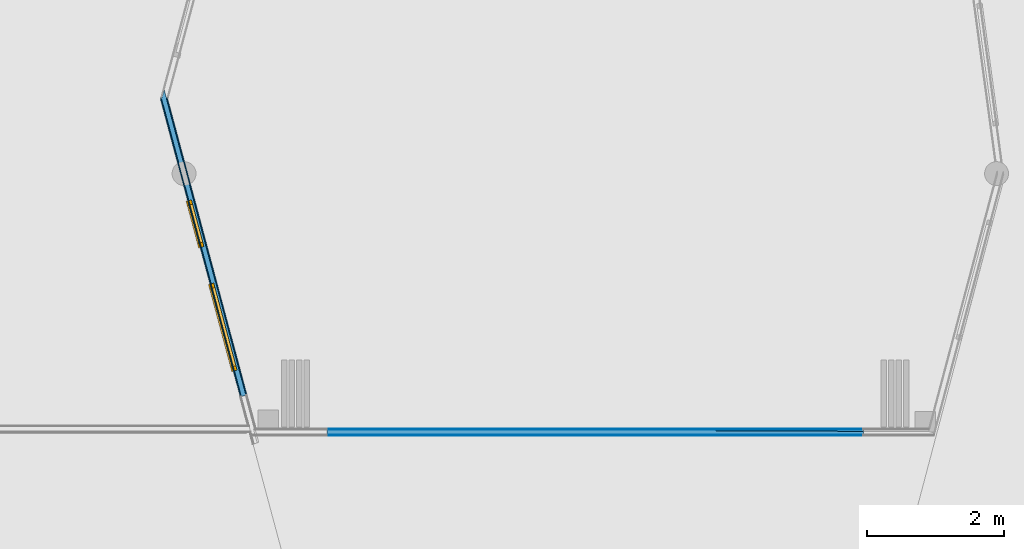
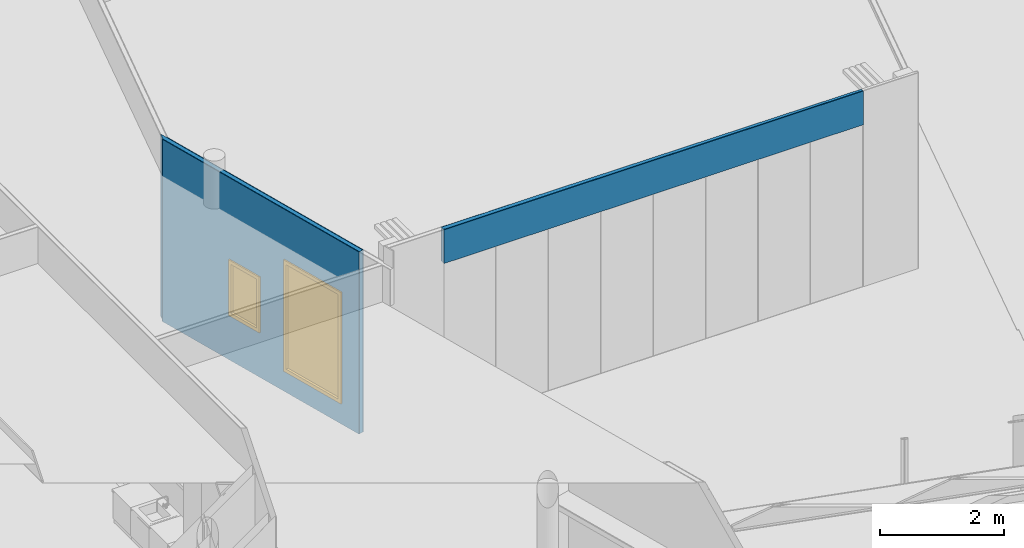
# One storey, part 61 of 167: 6 building element parts, 2 windows, 2 openings, 2 elements without a shape of their own.
"""IFC2X3 building model written with IfcOpenShell, lengths in millimetres."""

from ifc_helpers import new_model, entity, si_unit, converted_unit, derived_unit, money_unit, direction, frame, origin_with_axes, place, context, subcontext, project, spatial, open_shell, faceted_brep, surface_model, material, type_object, element, fill, aggregate, save


model = new_model("IFC2X3")

# Units and contexts
model_context = context("Model", 3, precision=0.01, world=origin_with_axes(), true_north=direction((0.0, 1.0)))
plan_context = context("Plan", 3, precision=0.01, world=origin_with_axes(), true_north=direction((0.0, 1.0)))
body_context = subcontext(model_context, "Body", "Model", "MODEL_VIEW")
ifc_project = project(units=[si_unit("LENGTHUNIT", "METRE", prefix="MILLI"), si_unit("AREAUNIT", "SQUARE_METRE"), si_unit("VOLUMEUNIT", "CUBIC_METRE"), converted_unit("PLANEANGLEUNIT", "DEGREE", entity("IfcPlaneAngleMeasure", 0.0174532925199), si_unit("PLANEANGLEUNIT", "RADIAN"), dimensions=[0, 0, 0, 0, 0, 0, 0]), si_unit("SOLIDANGLEUNIT", "STERADIAN"), money_unit("EUR"), converted_unit("TIMEUNIT", "Year", entity("IfcTimeMeasure", 31556926.0), si_unit("TIMEUNIT", "SECOND"), dimensions=[0, 0, 1, 0, 0, 0, 0]), si_unit("MASSUNIT", "GRAM", prefix="KILO"), si_unit("THERMODYNAMICTEMPERATUREUNIT", "DEGREE_CELSIUS"), si_unit("LUMINOUSINTENSITYUNIT", "LUMEN"), si_unit("ENERGYUNIT", "JOULE", prefix="MEGA"), derived_unit("THERMALCONDUCTANCEUNIT", [(si_unit("POWERUNIT", "WATT"), 1), (si_unit("LENGTHUNIT", "METRE"), -1), (si_unit("THERMODYNAMICTEMPERATUREUNIT", "KELVIN"), -1)]), derived_unit("SPECIFICHEATCAPACITYUNIT", [(si_unit("ENERGYUNIT", "JOULE"), 1), (si_unit("MASSUNIT", "GRAM", prefix="KILO"), -1), (si_unit("THERMODYNAMICTEMPERATUREUNIT", "KELVIN"), -1)]), derived_unit("MASSDENSITYUNIT", [(si_unit("MASSUNIT", "GRAM", prefix="KILO"), 1), (si_unit("VOLUMEUNIT", "CUBIC_METRE"), -1)])], contexts=[model_context, plan_context])

# Site, building, storey
site_placement = place(None, origin_with_axes())
site = spatial("IfcSite", under=ifc_project, at=site_placement, Name="Site", CompositionType="ELEMENT")
building_placement = place(site_placement, origin_with_axes())
building = spatial("IfcBuilding", under=site, at=building_placement, Name="Naam gebouw", CompositionType="ELEMENT")
storey_placement = place(building_placement, origin_with_axes())
storey = spatial("IfcBuildingStorey", under=building, at=storey_placement, Name="Begane grond", CompositionType="ELEMENT", Elevation=0.0)

# Window
window_style = type_object("IfcWindowStyle", Name="R1 24", ConstructionType="NOTDEFINED", OperationType="SINGLE_PANEL", ParameterTakesPrecedence=False, Sizeable=False)
wall_2_placement = place(storey_placement, frame((11187.5193443, 29890.1209257, -100.0), z_axis=(0.0, 0.0, 1.0), x_axis=(0.258819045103, -0.965925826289, 0.0)))
opening_1_placement = place(wall_2_placement, frame((1876.61092126, 0.0, 925.850722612), z_axis=(0.0, 0.0, 1.0), x_axis=(1.0, 0.0, 0.0)))
window_1_placement = place(opening_1_placement, frame((353.414372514, 0.0, 0.0), z_axis=(0.0, 0.0, 1.0), x_axis=(-1.0, 0.0, 0.0)))
window_1 = element("IfcWindow", 1, at=window_1_placement, inside=storey, type_object=window_style, Name="31_Raam_Hi-36", ObjectType="WINDOW", OverallHeight=1100.0, OverallWidth=706.829, context=body_context, shape_type="SurfaceModel", body=[
    faceted_brep([(67.0, -5.0, 1033.0), (67.0, 75.0, 1033.0), (0.0, 75.0, 1033.0), (0.0, -5.0, 1033.0), (67.0, -5.0, 67.0), (67.0, 75.0, 67.0), (0.0, 75.0, 67.0), (0.0, -5.0, 67.0)], [[[0, 1, 2, 3]], [[4, 5, 1, 0]], [[1, 5, 6, 2]], [[3, 2, 6, 7]], [[0, 3, 7, 4]], [[7, 6, 5, 4]]]),
    faceted_brep([(639.828745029, -5.0, 67.0), (639.828745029, 75.0, 67.0), (706.828745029, 75.0, 67.0), (706.828745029, -5.0, 67.0), (639.828745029, -5.0, 1033.0), (639.828745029, 75.0, 1033.0), (706.828745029, 75.0, 1033.0), (706.828745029, -5.0, 1033.0)], [[[0, 1, 2, 3]], [[4, 5, 1, 0]], [[1, 5, 6, 2]], [[3, 2, 6, 7]], [[0, 3, 7, 4]], [[7, 6, 5, 4]]]),
    faceted_brep([(67.0, -5.0, 67.0), (67.0, 75.0, 67.0), (0.0, 75.0, 67.0), (0.0, -5.0, 67.0), (639.828745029, -5.0, 67.0), (639.828745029, 75.0, 67.0), (706.828745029, 75.0, 67.0), (706.828745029, 75.0, 0.0), (0.0, 75.0, 0.0), (0.0, -5.0, 0.0), (706.828745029, -5.0, 0.0), (706.828745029, -5.0, 67.0)], [[[0, 1, 2, 3]], [[4, 5, 1, 0]], [[1, 5, 6, 7, 8, 2]], [[3, 2, 8, 9]], [[0, 3, 9, 10, 11, 4]], [[11, 6, 5, 4]], [[10, 7, 6, 11]], [[9, 8, 7, 10]]]),
    faceted_brep([(639.828745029, -5.0, 1033.0), (639.828745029, 75.0, 1033.0), (706.828745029, 75.0, 1033.0), (706.828745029, -5.0, 1033.0), (67.0, -5.0, 1033.0), (67.0, 75.0, 1033.0), (0.0, 75.0, 1033.0), (0.0, 75.0, 1100.0), (706.828745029, 75.0, 1100.0), (706.828745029, -5.0, 1100.0), (0.0, -5.0, 1100.0), (0.0, -5.0, 1033.0)], [[[0, 1, 2, 3]], [[4, 5, 1, 0]], [[1, 5, 6, 7, 8, 2]], [[3, 2, 8, 9]], [[0, 3, 9, 10, 11, 4]], [[11, 6, 5, 4]], [[10, 7, 6, 11]], [[9, 8, 7, 10]]]),
    surface_model("IfcShellBasedSurfaceModel", [(67.0, 11.0, 67.0), (639.828745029, 11.0, 67.0), (639.828745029, 11.0, 1033.0), (67.0, 11.0, 1033.0)], [open_shell([[[0, 1, 2, 3]]])]),
    surface_model("IfcShellBasedSurfaceModel", [(67.0, 31.0, 67.0), (67.0, 31.0, 1033.0), (639.828745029, 31.0, 1033.0), (639.828745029, 31.0, 67.0)], [open_shell([[[0, 1, 2, 3]]])]),
])

opening_2_placement = place(wall_2_placement, frame((3441.0910173, 0.0, 446.696525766), z_axis=(0.0, 0.0, 1.0), x_axis=(1.0, 0.0, 0.0)))
window_2_placement = place(opening_2_placement, frame((658.572430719, 0.0, 0.0), z_axis=(0.0, 0.0, 1.0), x_axis=(-1.0, 0.0, 0.0)))
window_2 = element("IfcWindow", 2, at=window_2_placement, inside=storey, type_object=window_style, Name="31_Raam_Hi-37", ObjectType="WINDOW", OverallHeight=2200.0, OverallWidth=1317.14, context=body_context, shape_type="SurfaceModel", body=[
    faceted_brep([(67.0, -5.0, 2133.0), (67.0, 75.0, 2133.0), (0.0, 75.0, 2133.0), (0.0, -5.0, 2133.0), (67.0, -5.0, 67.0), (67.0, 75.0, 67.0), (0.0, 75.0, 67.0), (0.0, -5.0, 67.0)], [[[0, 1, 2, 3]], [[4, 5, 1, 0]], [[1, 5, 6, 2]], [[3, 2, 6, 7]], [[0, 3, 7, 4]], [[7, 6, 5, 4]]]),
    faceted_brep([(1250.14486144, -5.0, 67.0), (1250.14486144, 75.0, 67.0), (1317.14486144, 75.0, 67.0), (1317.14486144, -5.0, 67.0), (1250.14486144, -5.0, 2133.0), (1250.14486144, 75.0, 2133.0), (1317.14486144, 75.0, 2133.0), (1317.14486144, -5.0, 2133.0)], [[[0, 1, 2, 3]], [[4, 5, 1, 0]], [[1, 5, 6, 2]], [[3, 2, 6, 7]], [[0, 3, 7, 4]], [[7, 6, 5, 4]]]),
    faceted_brep([(67.0, -5.0, 67.0), (67.0, 75.0, 67.0), (0.0, 75.0, 67.0), (0.0, -5.0, 67.0), (1250.14486144, -5.0, 67.0), (1250.14486144, 75.0, 67.0), (1317.14486144, 75.0, 67.0), (1317.14486144, 75.0, 0.0), (0.0, 75.0, 0.0), (0.0, -5.0, 0.0), (1317.14486144, -5.0, 0.0), (1317.14486144, -5.0, 67.0)], [[[0, 1, 2, 3]], [[4, 5, 1, 0]], [[1, 5, 6, 7, 8, 2]], [[3, 2, 8, 9]], [[0, 3, 9, 10, 11, 4]], [[11, 6, 5, 4]], [[10, 7, 6, 11]], [[9, 8, 7, 10]]]),
    faceted_brep([(1250.14486144, -5.0, 2133.0), (1250.14486144, 75.0, 2133.0), (1317.14486144, 75.0, 2133.0), (1317.14486144, -5.0, 2133.0), (67.0, -5.0, 2133.0), (67.0, 75.0, 2133.0), (0.0, 75.0, 2133.0), (0.0, 75.0, 2200.0), (1317.14486144, 75.0, 2200.0), (1317.14486144, -5.0, 2200.0), (0.0, -5.0, 2200.0), (0.0, -5.0, 2133.0)], [[[0, 1, 2, 3]], [[4, 5, 1, 0]], [[1, 5, 6, 7, 8, 2]], [[3, 2, 8, 9]], [[0, 3, 9, 10, 11, 4]], [[11, 6, 5, 4]], [[10, 7, 6, 11]], [[9, 8, 7, 10]]]),
    surface_model("IfcShellBasedSurfaceModel", [(67.0, 11.0, 67.0), (1250.14486144, 11.0, 67.0), (1250.14486144, 11.0, 2133.0), (67.0, 11.0, 2133.0)], [open_shell([[[0, 1, 2, 3]]])]),
    surface_model("IfcShellBasedSurfaceModel", [(67.0, 31.0, 67.0), (67.0, 31.0, 2133.0), (1250.14486144, 31.0, 2133.0), (1250.14486144, 31.0, 67.0)], [open_shell([[[0, 1, 2, 3]]])]),
])

# Wall, building element parts
wall_type = type_object("IfcWallType", Name="_TenW_22_Metalstud 100 enkel gipsvezelplaat 100", PredefinedType="NOTDEFINED")
wall_1_placement = place(storey_placement, frame((13564.462989, 25025.0, 3202.0), z_axis=(0.0, 0.0, 1.0), x_axis=(1.0, 0.0, 0.0)))
wall_1 = element("IfcWall", 3, at=wall_1_placement, inside=storey, type_object=wall_type, Name="22_Wand_Wand-x")
ifc_material_1 = material(Name="Gipsplaat watervast")
building_element_part_1_placement = place(wall_1_placement, origin_with_axes())
building_element_part_1 = element("IfcBuildingElementPart", 4, at=building_element_part_1_placement, material=ifc_material_1, Name="Gipsplaat watervast", context=body_context, shape_type="Brep", body=[
    faceted_brep([(0.0, 50.0, 328.0), (7839.67482976, 49.9999999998, 328.0), (7839.67482976, 49.9999999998, 0.0), (0.0, 50.0, 0.0), (7839.67482976, 37.4999999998, 328.0), (0.0, 44.6242930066, 328.0), (1727.4155355, 37.4999999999, 328.0), (7839.67482976, 37.4999999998, 0.0), (0.0, 37.5, 0.0), (0.0, 37.5, 668.0), (0.0, 44.6242930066, 668.0), (798.037011, 41.3329891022, 668.0), (798.037011, 41.3329891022, 658.0), (873.037011, 41.0236703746, 658.0), (873.037011, 41.0236703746, 668.0), (1727.4155355, 37.4999999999, 668.0), (873.037011, 37.5, 668.0), (873.037011, 37.5, 658.0), (798.037011, 37.5, 658.0), (798.037011, 37.5, 668.0)], [[[0, 1, 2, 3]], [[4, 1, 0, 5, 6]], [[1, 4, 7, 2]], [[8, 3, 2, 7]], [[5, 0, 3, 8, 9, 10]], [[6, 5, 10, 11, 12, 13, 14, 15]], [[6, 15, 16, 17, 18, 19, 9, 8, 7, 4]], [[11, 10, 9, 19]], [[12, 11, 19, 18]], [[13, 12, 18, 17]], [[14, 13, 17, 16]], [[15, 14, 16]]]),
])
ifc_material_2 = material(Name="Isolatie - Steenwol zacht")
building_element_part_2_placement = place(wall_1_placement, origin_with_axes())
building_element_part_2 = element("IfcBuildingElementPart", 5, at=building_element_part_2_placement, material=ifc_material_2, Name="Isolatie - Steenwol zacht", context=body_context, shape_type="Brep", body=[
    faceted_brep([(1727.4155355, 37.4999999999, 328.0), (7839.67482976, 37.4999999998, 328.0), (7839.67482976, 37.4999999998, 0.0), (0.0, 37.5, 0.0), (0.0, 37.5, 668.0), (1727.41553558, 37.4999999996, 668.0), (7839.67482976, 12.2915164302, 328.0), (7839.67482976, 12.2915164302, 668.0), (7839.67482976, -37.5000000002, 668.0), (7839.67482976, -37.5000000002, 0.0), (0.0, -37.5, 0.0), (0.0, -37.5, 668.0)], [[[0, 1, 2, 3, 4, 5]], [[6, 1, 0]], [[6, 7, 8, 9, 2, 1]], [[3, 2, 9, 10]], [[10, 11, 4, 3]], [[7, 5, 4, 11, 8]], [[6, 0, 5, 7]], [[10, 9, 8, 11]]]),
])
building_element_part_3_placement = place(wall_1_placement, origin_with_axes())
building_element_part_3 = element("IfcBuildingElementPart", 6, at=building_element_part_3_placement, material=ifc_material_1, Name="Gipsplaat watervast", context=body_context, shape_type="Brep", body=[
    faceted_brep([(0.0, -50.0, 668.0), (7839.67482976, -50.0000000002, 668.0), (7839.67482976, -37.5000000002, 668.0), (0.0, -37.5, 668.0), (0.0, -50.0, 0.0), (7839.67482976, -50.0000000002, 0.0), (7839.67482976, -37.5000000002, 0.0), (0.0, -37.5, 0.0)], [[[0, 1, 2, 3]], [[4, 5, 1, 0]], [[2, 1, 5, 6]], [[3, 2, 6, 7]], [[4, 0, 3, 7]], [[7, 6, 5, 4]]]),
])
aggregate(wall_1, [building_element_part_1, building_element_part_2, building_element_part_3])

# Wall, opening
wall_2 = element("IfcWall", 7, at=wall_2_placement, inside=storey, type_object=wall_type, Name="22_Wand_Wand-x")
opening_1 = element("IfcOpeningElement", 8, at=opening_1_placement, cuts=wall_2, Name="31_Raam_Hi-36", context=body_context, shape_type="Brep", body=[
    faceted_brep([(-353.414372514, 100.0, 1100.0), (-353.414372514, 100.0, 0.0), (-353.414372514, -225.0, 0.0), (-353.414372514, -225.0, 1100.0), (353.414372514, 100.0, 1100.0), (353.414372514, 100.0, 0.0), (353.414372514, -225.0, 0.0), (353.414372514, -225.0, 1100.0)], [[[0, 1, 2, 3]], [[0, 4, 5, 1]], [[1, 5, 6, 2]], [[3, 2, 6, 7]], [[4, 0, 3, 7]], [[5, 4, 7, 6]]]),
])

fill(opening_1, window_1)

# Opening
opening_2 = element("IfcOpeningElement", 9, at=opening_2_placement, cuts=wall_2, Name="31_Raam_Hi-37", context=body_context, shape_type="Brep", body=[
    faceted_brep([(-658.572430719, 100.0, 2200.0), (-658.572430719, 100.0, 0.0), (-658.572430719, -225.0, 0.0), (-658.572430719, -225.0, 2200.0), (658.572430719, 100.0, 2200.0), (658.572430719, 100.0, 0.0), (658.572430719, -225.0, 0.0), (658.572430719, -225.0, 2200.0)], [[[0, 1, 2, 3]], [[0, 4, 5, 1]], [[1, 5, 6, 2]], [[3, 2, 6, 7]], [[4, 0, 3, 7]], [[5, 4, 7, 6]]]),
])

fill(opening_2, window_2)

# Building element part
building_element_part_4_placement = place(wall_2_placement, origin_with_axes())
building_element_part_4 = element("IfcBuildingElementPart", 10, at=building_element_part_4_placement, material=ifc_material_1, Name="Gipsplaat watervast", context=body_context, shape_type="Brep", body=[
    faceted_brep([(10.0480947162, 37.5, 30.0), (4489.02245748, 37.5, 30.0), (4489.02245748, 37.5, 3630.0), (10.0480947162, 37.5, 3630.0), (1523.19654874, 37.5, 2025.85072261), (2230.02529377, 37.5, 2025.85072261), (2230.02529377, 37.5, 925.850722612), (1523.19654874, 37.5, 925.850722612), (2782.51858658, 37.5, 446.696525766), (2782.51858658, 37.5, 2646.69652577), (4099.66344802, 37.5, 2646.69652577), (4099.66344802, 37.5, 446.696525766), (-11.6025403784, 50.0, 30.0), (4489.02245748, 50.0, 30.0), (4489.02245748, 50.0, 3630.0), (-11.6025403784, 50.0, 3630.0), (2230.02529377, 50.0, 2025.85072261), (1523.19654874, 50.0, 2025.85072261), (2230.02529377, 50.0, 925.850722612), (1523.19654874, 50.0, 925.850722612), (2782.51858658, 50.0, 446.696525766), (2782.51858658, 50.0, 2646.69652577), (4099.66344802, 50.0, 2646.69652577), (4099.66344802, 50.0, 446.696525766)], [[[0, 1, 2, 3], [4, 5, 6, 7], [8, 9, 10, 11]], [[1, 0, 12, 13]], [[1, 13, 14, 2]], [[15, 3, 2, 14]], [[12, 0, 3, 15]], [[16, 5, 4, 17]], [[18, 6, 5, 16]], [[19, 7, 6, 18]], [[17, 4, 7, 19]], [[20, 21, 9, 8]], [[21, 22, 10, 9]], [[22, 23, 11, 10]], [[23, 20, 8, 11]], [[13, 12, 15, 14], [18, 16, 17, 19], [20, 23, 22, 21]]]),
])

building_element_part_5_placement = place(wall_2_placement, origin_with_axes())
building_element_part_5 = element("IfcBuildingElementPart", 11, at=building_element_part_5_placement, material=ifc_material_2, Name="Isolatie - Steenwol zacht", context=body_context, shape_type="Brep", body=[
    faceted_brep([(-10.0480947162, -37.5, 30.0), (4489.02245748, -37.5, 30.0), (4489.02245748, -37.5, 3630.0), (-10.0480947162, -37.5, 3630.0), (1523.19654874, -37.5, 2025.85072261), (2230.02529377, -37.5, 2025.85072261), (2230.02529377, -37.5, 925.850722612), (1523.19654874, -37.5, 925.850722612), (2782.51858658, -37.5, 446.696525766), (2782.51858658, -37.5, 2646.69652577), (4099.66344802, -37.5, 2646.69652577), (4099.66344802, -37.5, 446.696525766), (-139.951905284, 37.5, 30.0), (4489.02245748, 37.5, 30.0), (4489.02245748, 37.5, 3630.0), (-139.951905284, 37.5, 3630.0), (2230.02529377, 37.5, 2025.85072261), (1523.19654874, 37.5, 2025.85072261), (2230.02529377, 37.5, 925.850722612), (1523.19654874, 37.5, 925.850722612), (2782.51858658, 37.5, 446.696525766), (2782.51858658, 37.5, 2646.69652577), (4099.66344802, 37.5, 2646.69652577), (4099.66344802, 37.5, 446.696525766)], [[[0, 1, 2, 3], [4, 5, 6, 7], [8, 9, 10, 11]], [[1, 0, 12, 13]], [[1, 13, 14, 2]], [[15, 3, 2, 14]], [[12, 0, 3, 15]], [[16, 5, 4, 17]], [[18, 6, 5, 16]], [[19, 7, 6, 18]], [[17, 4, 7, 19]], [[20, 21, 9, 8]], [[21, 22, 10, 9]], [[22, 23, 11, 10]], [[23, 20, 8, 11]], [[13, 12, 15, 14], [18, 16, 17, 19], [20, 23, 22, 21]]]),
])

building_element_part_6_placement = place(wall_2_placement, origin_with_axes())
building_element_part_6 = element("IfcBuildingElementPart", 12, at=building_element_part_6_placement, material=ifc_material_1, Name="Gipsplaat watervast", context=body_context, shape_type="Brep", body=[
    faceted_brep([(-13.3974596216, -50.0, 30.0), (4489.02245748, -50.0, 30.0), (4489.02245748, -50.0, 3630.0), (-13.3974596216, -50.0, 3630.0), (1523.19654874, -50.0, 2025.85072261), (2230.02529377, -50.0, 2025.85072261), (2230.02529377, -50.0, 925.850722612), (1523.19654874, -50.0, 925.850722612), (2782.51858658, -50.0, 446.696525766), (2782.51858658, -50.0, 2646.69652577), (4099.66344802, -50.0, 2646.69652577), (4099.66344802, -50.0, 446.696525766), (-35.0480947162, -37.5, 30.0), (4489.02245748, -37.5, 30.0), (4489.02245748, -37.5, 3630.0), (-35.0480947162, -37.5, 3630.0), (2230.02529377, -37.5, 2025.85072261), (1523.19654874, -37.5, 2025.85072261), (2230.02529377, -37.5, 925.850722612), (1523.19654874, -37.5, 925.850722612), (2782.51858658, -37.5, 446.696525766), (2782.51858658, -37.5, 2646.69652577), (4099.66344802, -37.5, 2646.69652577), (4099.66344802, -37.5, 446.696525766)], [[[0, 1, 2, 3], [4, 5, 6, 7], [8, 9, 10, 11]], [[1, 0, 12, 13]], [[1, 13, 14, 2]], [[15, 3, 2, 14]], [[12, 0, 3, 15]], [[16, 5, 4, 17]], [[18, 6, 5, 16]], [[19, 7, 6, 18]], [[17, 4, 7, 19]], [[20, 21, 9, 8]], [[21, 22, 10, 9]], [[22, 23, 11, 10]], [[23, 20, 8, 11]], [[13, 12, 15, 14], [18, 16, 17, 19], [20, 23, 22, 21]]]),
])

aggregate(wall_2, [building_element_part_4, building_element_part_5, building_element_part_6])

save(model, "model.ifc")
